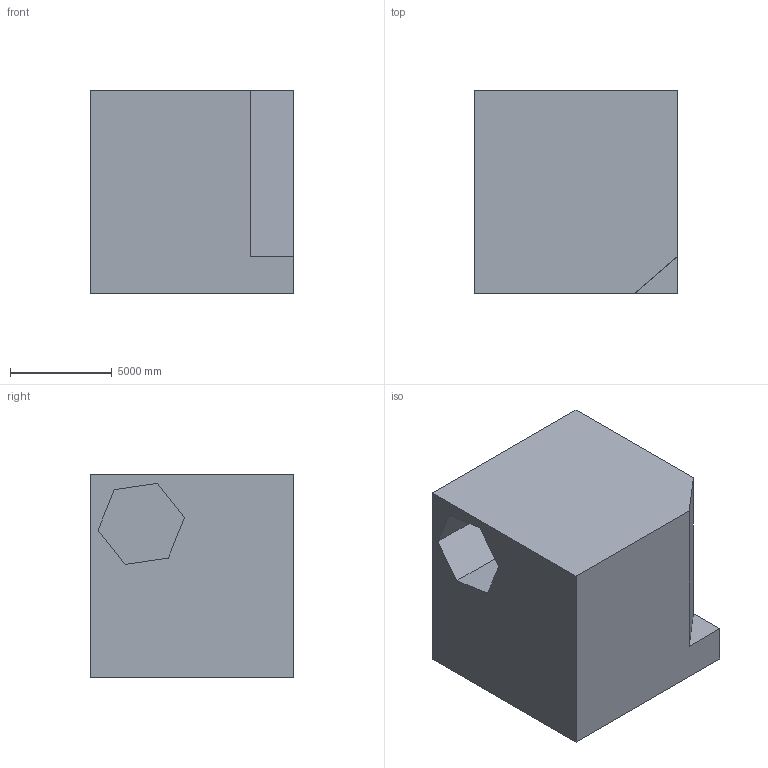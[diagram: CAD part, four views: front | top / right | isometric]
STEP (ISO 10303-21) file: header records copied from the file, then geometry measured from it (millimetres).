
FILE_DESCRIPTION (( 'STEP AP203' ), '1' );
FILE_NAME ('104.STEP', '2022-09-06T15:05:34', ( 'user' ), ( '' ), 'SwSTEP 2.0', 'SolidWorks 2021', '' );
FILE_SCHEMA (( 'CONFIG_CONTROL_DESIGN' ));
Length unit declared in the file: centimetre
Products named in the file (1): 104
Bounding box: 10000 x 10000 x 10000 mm (x, y, z)
Volume: 941185268254.8 mm3; surface area: 636740057.9 mm2
Topology: 1 solids, 1 shells, 15 faces, 36 edges, 24 vertices
Faces by surface type: plane 15
Entity records: 507 total; most frequent: CARTESIAN_POINT 76, ORIENTED_EDGE 72, DIRECTION 68, EDGE_CURVE 36, LINE 36, VECTOR 36, VERTEX_POINT 24, AXIS2_PLACEMENT_3D 16
